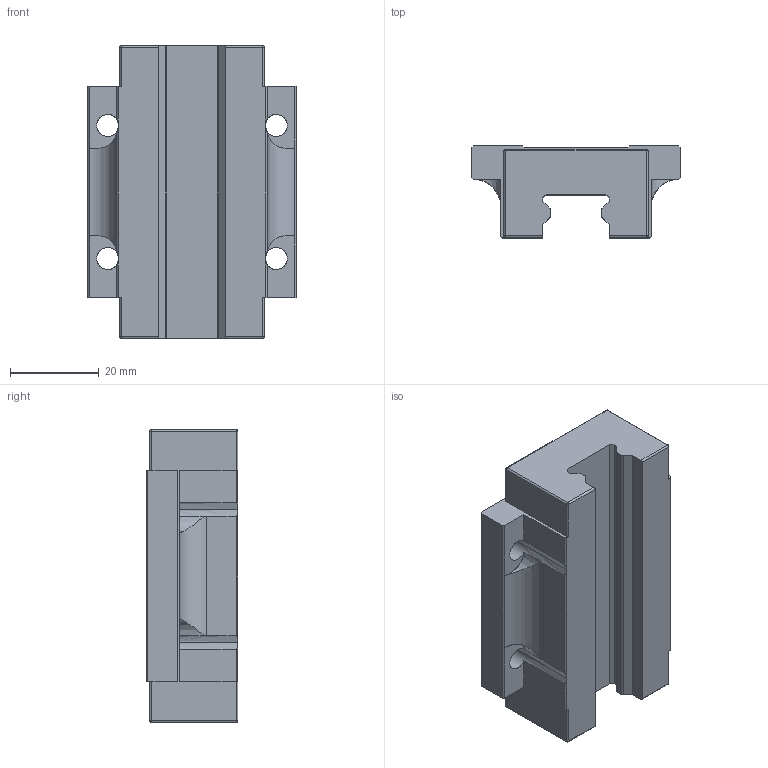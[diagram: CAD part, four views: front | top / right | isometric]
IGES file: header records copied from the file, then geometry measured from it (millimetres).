
Start section: SolidWorks IGES file using analytic representation for surfaces
Global section: file name: C:\Users\IanO\Desktop\Temp File\GENERAL\L1016_v2\L1016.F-BC_v2\L1016.F-BC_v2_20190612_IGES\L1016.F15-L-BC.igs; native system: SolidWorks 2017; preprocessor: SolidWorks 2017; author: IanO; date: 190613.152130; units: millimetre
Bounding box: 47 x 20.7 x 66.1 mm (x, y, z)
Surface area: 11253.1 mm2 (no closed solid volume)
Topology: 0 solids, 0 shells, 100 faces, 948 edges, 940 vertices
Faces by surface type: bspline 56, revolution 44
